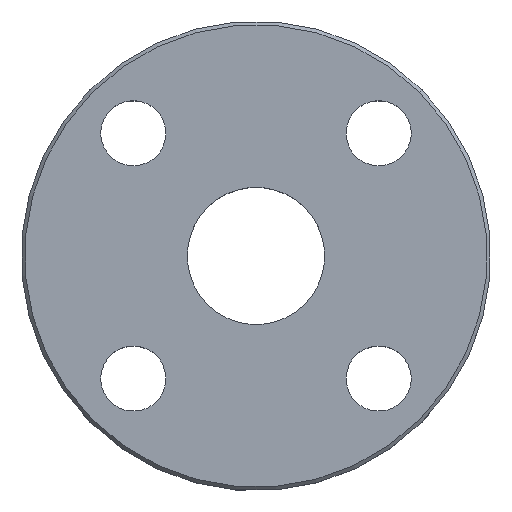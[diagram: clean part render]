
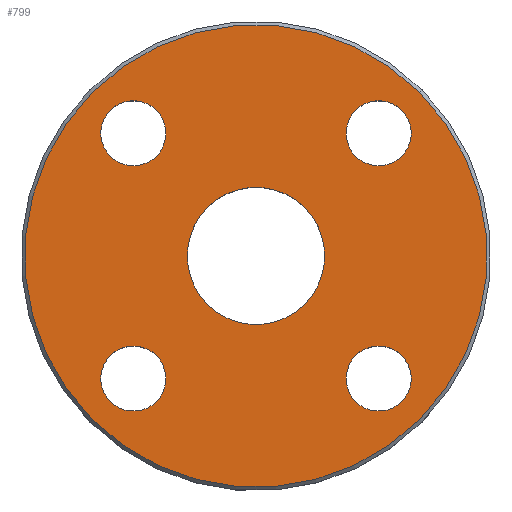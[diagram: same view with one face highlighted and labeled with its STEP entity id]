
A CAD part, top view. The second image highlights one B-rep face of the part: STEP entity #799.
In plain terms, the highlighted planar face has unit normal (0, 0, 1).
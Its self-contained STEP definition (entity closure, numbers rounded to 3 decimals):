
#6 = DIRECTION ( 'NONE',  ( 0., 0., -1. ) ) ;
#13 = CARTESIAN_POINT ( 'NONE',  ( 0., 0., 223. ) ) ;
#22 = CARTESIAN_POINT ( 'NONE',  ( -22.627, -22.627, 223. ) ) ;
#23 = CARTESIAN_POINT ( 'NONE',  ( -16.971, 16.971, 223. ) ) ;
#31 = FACE_BOUND ( 'NONE', #489, .T. ) ;
#65 = CARTESIAN_POINT ( 'NONE',  ( -13.789, 13.789, 223. ) ) ;
#72 = VERTEX_POINT ( 'NONE', #84 ) ;
#79 = CARTESIAN_POINT ( 'NONE',  ( 0., 0., 223. ) ) ;
#84 = CARTESIAN_POINT ( 'NONE',  ( 22.627, 22.627, 223. ) ) ;
#92 = FACE_BOUND ( 'NONE', #264, .T. ) ;
#97 = DIRECTION ( 'NONE',  ( 0.707, 0.707, 0. ) ) ;
#99 = DIRECTION ( 'NONE',  ( 0., 0., -1. ) ) ;
#105 = CARTESIAN_POINT ( 'NONE',  ( 16.971, 16.971, 223. ) ) ;
#109 = CARTESIAN_POINT ( 'NONE',  ( -13.789, -13.789, 223. ) ) ;
#111 = EDGE_LOOP ( 'NONE', ( #697, #850 ) ) ;
#115 = VERTEX_POINT ( 'NONE', #65 ) ;
#125 = CARTESIAN_POINT ( 'NONE',  ( -16.971, -16.971, 223. ) ) ;
#133 = VERTEX_POINT ( 'NONE', #135 ) ;
#135 = CARTESIAN_POINT ( 'NONE',  ( 13.789, -13.789, 223. ) ) ;
#183 = CIRCLE ( 'NONE', #449, 4.5 ) ;
#211 = EDGE_CURVE ( 'NONE', #790, #770, #742, .T. ) ;
#229 = DIRECTION ( 'NONE',  ( 0.707, 0.707, 0. ) ) ;
#242 = DIRECTION ( 'NONE',  ( 0., 0., -1. ) ) ;
#244 = DIRECTION ( 'NONE',  ( -0.707, 0.707, 0. ) ) ;
#252 = EDGE_CURVE ( 'NONE', #770, #790, #747, .T. ) ;
#253 = CIRCLE ( 'NONE', #572, 4.5 ) ;
#254 = CARTESIAN_POINT ( 'NONE',  ( 0., 0., 223. ) ) ;
#256 = DIRECTION ( 'NONE',  ( 0.707, -0.707, 0. ) ) ;
#262 = DIRECTION ( 'NONE',  ( 0., 0., -1. ) ) ;
#263 = EDGE_CURVE ( 'NONE', #115, #597, #882, .T. ) ;
#264 = EDGE_LOOP ( 'NONE', ( #678, #317 ) ) ;
#266 = FACE_BOUND ( 'NONE', #916, .T. ) ;
#272 = DIRECTION ( 'NONE',  ( 0., 0., -1. ) ) ;
#284 = CIRCLE ( 'NONE', #964, 32. ) ;
#302 = EDGE_CURVE ( 'NONE', #440, #590, #1011, .T. ) ;
#317 = ORIENTED_EDGE ( 'NONE', *, *, #980, .T. ) ;
#322 = DIRECTION ( 'NONE',  ( 0., 0., -1. ) ) ;
#326 = DIRECTION ( 'NONE',  ( 0., 0., 1. ) ) ;
#328 = DIRECTION ( 'NONE',  ( 0., 0., -1. ) ) ;
#329 = EDGE_CURVE ( 'NONE', #597, #115, #825, .T. ) ;
#333 = CARTESIAN_POINT ( 'NONE',  ( 16.971, -16.971, 223. ) ) ;
#336 = EDGE_CURVE ( 'NONE', #751, #861, #362, .T. ) ;
#359 = ORIENTED_EDGE ( 'NONE', *, *, #211, .T. ) ;
#362 = CIRCLE ( 'NONE', #940, 4.5 ) ;
#383 = ORIENTED_EDGE ( 'NONE', *, *, #401, .T. ) ;
#384 = AXIS2_PLACEMENT_3D ( 'NONE', #654, #493, #725 ) ;
#395 = EDGE_CURVE ( 'NONE', #133, #1010, #183, .T. ) ;
#401 = EDGE_CURVE ( 'NONE', #861, #751, #253, .T. ) ;
#403 = PLANE ( 'NONE',  #911 ) ;
#412 = DIRECTION ( 'NONE',  ( -0.707, -0.707, 0. ) ) ;
#418 = FACE_BOUND ( 'NONE', #462, .T. ) ;
#422 = CARTESIAN_POINT ( 'NONE',  ( -20.153, -20.153, 223. ) ) ;
#428 = AXIS2_PLACEMENT_3D ( 'NONE', #23, #262, #244 ) ;
#440 = VERTEX_POINT ( 'NONE', #551 ) ;
#444 = DIRECTION ( 'NONE',  ( 0., 0., -1. ) ) ;
#449 = AXIS2_PLACEMENT_3D ( 'NONE', #333, #328, #256 ) ;
#462 = EDGE_LOOP ( 'NONE', ( #857, #383 ) ) ;
#464 = DIRECTION ( 'NONE',  ( 0., 0., -1. ) ) ;
#482 = AXIS2_PLACEMENT_3D ( 'NONE', #983, #272, #516 ) ;
#484 = EDGE_LOOP ( 'NONE', ( #992, #824 ) ) ;
#489 = EDGE_LOOP ( 'NONE', ( #359, #695 ) ) ;
#493 = DIRECTION ( 'NONE',  ( 0., 0., -1. ) ) ;
#497 = AXIS2_PLACEMENT_3D ( 'NONE', #125, #444, #924 ) ;
#500 = AXIS2_PLACEMENT_3D ( 'NONE', #79, #464, #229 ) ;
#514 = EDGE_CURVE ( 'NONE', #72, #722, #785, .T. ) ;
#516 = DIRECTION ( 'NONE',  ( -0.707, -0.707, 0. ) ) ;
#537 = DIRECTION ( 'NONE',  ( -0.707, 0.707, 0. ) ) ;
#551 = CARTESIAN_POINT ( 'NONE',  ( -6.718, -6.718, 223. ) ) ;
#565 = CIRCLE ( 'NONE', #667, 4.5 ) ;
#569 = CARTESIAN_POINT ( 'NONE',  ( 20.153, 20.153, 223. ) ) ;
#572 = AXIS2_PLACEMENT_3D ( 'NONE', #105, #957, #721 ) ;
#590 = VERTEX_POINT ( 'NONE', #694 ) ;
#597 = VERTEX_POINT ( 'NONE', #998 ) ;
#637 = CARTESIAN_POINT ( 'NONE',  ( 16.971, -16.971, 223. ) ) ;
#640 = ORIENTED_EDGE ( 'NONE', *, *, #329, .T. ) ;
#648 = DIRECTION ( 'NONE',  ( 0.707, -0.707, 0. ) ) ;
#654 = CARTESIAN_POINT ( 'NONE',  ( 0., 0., 223. ) ) ;
#667 = AXIS2_PLACEMENT_3D ( 'NONE', #637, #6, #689 ) ;
#678 = ORIENTED_EDGE ( 'NONE', *, *, #302, .T. ) ;
#689 = DIRECTION ( 'NONE',  ( 0.707, -0.707, 0. ) ) ;
#693 = DIRECTION ( 'NONE',  ( 0., 0., -1. ) ) ;
#694 = CARTESIAN_POINT ( 'NONE',  ( 6.718, 6.718, 223. ) ) ;
#695 = ORIENTED_EDGE ( 'NONE', *, *, #252, .T. ) ;
#697 = ORIENTED_EDGE ( 'NONE', *, *, #876, .T. ) ;
#721 = DIRECTION ( 'NONE',  ( 0.707, 0.707, 0. ) ) ;
#722 = VERTEX_POINT ( 'NONE', #22 ) ;
#725 = DIRECTION ( 'NONE',  ( -0.707, -0.707, 0. ) ) ;
#739 = AXIS2_PLACEMENT_3D ( 'NONE', #254, #99, #412 ) ;
#742 = CIRCLE ( 'NONE', #497, 4.5 ) ;
#747 = CIRCLE ( 'NONE', #482, 4.5 ) ;
#751 = VERTEX_POINT ( 'NONE', #569 ) ;
#770 = VERTEX_POINT ( 'NONE', #109 ) ;
#785 = CIRCLE ( 'NONE', #500, 32. ) ;
#786 = CIRCLE ( 'NONE', #739, 9.5 ) ;
#790 = VERTEX_POINT ( 'NONE', #422 ) ;
#799 = ADVANCED_FACE ( 'NONE', ( #418, #266, #893, #31, #92, #879 ), #403, .T. ) ;
#800 = CARTESIAN_POINT ( 'NONE',  ( 20.153, -20.153, 223. ) ) ;
#814 = CARTESIAN_POINT ( 'NONE',  ( 16.971, 16.971, 223. ) ) ;
#824 = ORIENTED_EDGE ( 'NONE', *, *, #988, .F. ) ;
#825 = CIRCLE ( 'NONE', #428, 4.5 ) ;
#841 = CARTESIAN_POINT ( 'NONE',  ( -16.971, 16.971, 223. ) ) ;
#850 = ORIENTED_EDGE ( 'NONE', *, *, #395, .T. ) ;
#857 = ORIENTED_EDGE ( 'NONE', *, *, #336, .T. ) ;
#861 = VERTEX_POINT ( 'NONE', #944 ) ;
#872 = DIRECTION ( 'NONE',  ( 0.707, 0.707, 0. ) ) ;
#876 = EDGE_CURVE ( 'NONE', #1010, #133, #565, .T. ) ;
#879 = FACE_OUTER_BOUND ( 'NONE', #484, .T. ) ;
#881 = AXIS2_PLACEMENT_3D ( 'NONE', #841, #693, #537 ) ;
#882 = CIRCLE ( 'NONE', #881, 4.5 ) ;
#885 = CARTESIAN_POINT ( 'NONE',  ( 0., 0., 223. ) ) ;
#893 = FACE_BOUND ( 'NONE', #111, .T. ) ;
#911 = AXIS2_PLACEMENT_3D ( 'NONE', #13, #326, #648 ) ;
#916 = EDGE_LOOP ( 'NONE', ( #640, #948 ) ) ;
#924 = DIRECTION ( 'NONE',  ( -0.707, -0.707, 0. ) ) ;
#940 = AXIS2_PLACEMENT_3D ( 'NONE', #814, #322, #97 ) ;
#944 = CARTESIAN_POINT ( 'NONE',  ( 13.789, 13.789, 223. ) ) ;
#948 = ORIENTED_EDGE ( 'NONE', *, *, #263, .T. ) ;
#957 = DIRECTION ( 'NONE',  ( 0., 0., -1. ) ) ;
#964 = AXIS2_PLACEMENT_3D ( 'NONE', #885, #242, #872 ) ;
#980 = EDGE_CURVE ( 'NONE', #590, #440, #786, .T. ) ;
#983 = CARTESIAN_POINT ( 'NONE',  ( -16.971, -16.971, 223. ) ) ;
#988 = EDGE_CURVE ( 'NONE', #722, #72, #284, .T. ) ;
#992 = ORIENTED_EDGE ( 'NONE', *, *, #514, .F. ) ;
#998 = CARTESIAN_POINT ( 'NONE',  ( -20.153, 20.153, 223. ) ) ;
#1010 = VERTEX_POINT ( 'NONE', #800 ) ;
#1011 = CIRCLE ( 'NONE', #384, 9.5 ) ;
